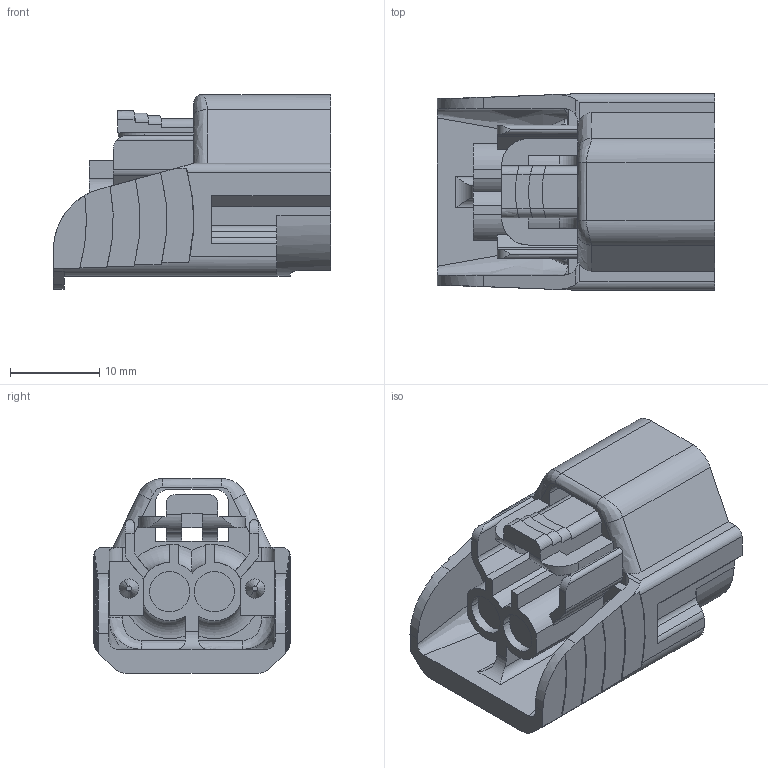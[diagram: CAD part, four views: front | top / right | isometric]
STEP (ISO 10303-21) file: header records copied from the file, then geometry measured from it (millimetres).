
FILE_DESCRIPTION(('CATIA V5 STEP Exchange'),'2;1');
FILE_NAME('N:\C-DAM_MyDesk\ENV\900093\6189-0573.stp','2013-08-20T06:05:29+00:00',('none'),('none'),'CATIA Version 5 Release 20 SP 4 (IN-10)','CATIA V5 STEP AP203','none');
FILE_SCHEMA(('CONFIG_CONTROL_DESIGN'));
Length unit declared in the file: millimetre
Products named in the file (1): 6189-0573
Bounding box: 31 x 22 x 21.8 mm (x, y, z)
Volume: 4788.8 mm3; surface area: 5458.1 mm2
Topology: 1 solids, 1 shells, 273 faces, 775 edges, 503 vertices
Faces by surface type: plane 146, cylinder 100, bspline 15, torus 6, cone 4, sphere 2
Entity records: 9796 total; most frequent: CARTESIAN_POINT 3188, ORIENTED_EDGE 1546, DIRECTION 1056, EDGE_CURVE 773, VERTEX_POINT 503, VECTOR 464, LINE 464, AXIS2_PLACEMENT_3D 387
